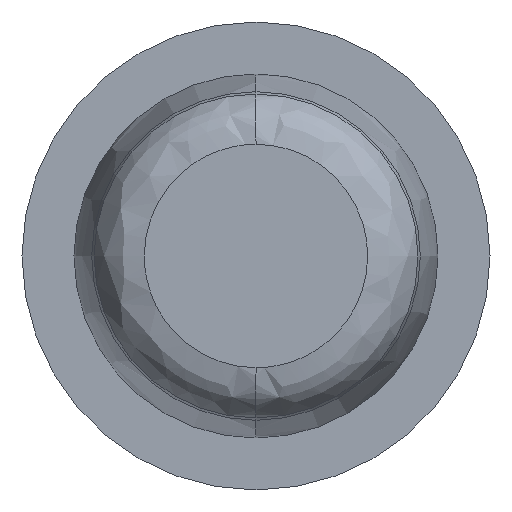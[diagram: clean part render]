
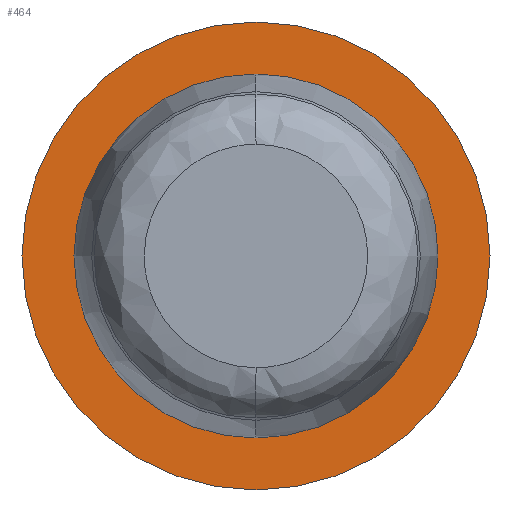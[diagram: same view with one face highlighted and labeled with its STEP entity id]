
A CAD part, left-side view. The second image highlights one B-rep face of the part: STEP entity #464.
In plain terms, the highlighted planar face has unit normal (-1, 0, 0).
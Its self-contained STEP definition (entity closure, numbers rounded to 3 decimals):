
#6 = CARTESIAN_POINT ( 'NONE',  ( -8., 0., 6.8 ) ) ;
#13 = DIRECTION ( 'NONE',  ( -1., 0., 0. ) ) ;
#26 = CARTESIAN_POINT ( 'NONE',  ( -8., 0., 0. ) ) ;
#33 = FACE_OUTER_BOUND ( 'NONE', #81, .T. ) ;
#39 = CARTESIAN_POINT ( 'NONE',  ( -8., 7.9, 0. ) ) ;
#47 = AXIS2_PLACEMENT_3D ( 'NONE', #513, #13, #519 ) ;
#81 = EDGE_LOOP ( 'NONE', ( #469, #161 ) ) ;
#159 = CIRCLE ( 'NONE', #204, 9. ) ;
#161 = ORIENTED_EDGE ( 'NONE', *, *, #525, .T. ) ;
#165 = DIRECTION ( 'NONE',  ( -1., 0., 0. ) ) ;
#166 = EDGE_CURVE ( 'NONE', #456, #208, #209, .T. ) ;
#174 = EDGE_LOOP ( 'NONE', ( #175, #385 ) ) ;
#175 = ORIENTED_EDGE ( 'NONE', *, *, #439, .F. ) ;
#180 = CIRCLE ( 'NONE', #495, 6.8 ) ;
#204 = AXIS2_PLACEMENT_3D ( 'NONE', #403, #530, #448 ) ;
#205 = DIRECTION ( 'NONE',  ( -1., 0., 0. ) ) ;
#208 = VERTEX_POINT ( 'NONE', #280 ) ;
#209 = CIRCLE ( 'NONE', #337, 9. ) ;
#211 = VERTEX_POINT ( 'NONE', #380 ) ;
#217 = CIRCLE ( 'NONE', #47, 6.8 ) ;
#244 = DIRECTION ( 'NONE',  ( 0., 0., -1. ) ) ;
#280 = CARTESIAN_POINT ( 'NONE',  ( -8., 0., 9. ) ) ;
#288 = DIRECTION ( 'NONE',  ( 0., 0., -1. ) ) ;
#316 = EDGE_CURVE ( 'NONE', #342, #211, #217, .T. ) ;
#327 = AXIS2_PLACEMENT_3D ( 'NONE', #39, #165, #334 ) ;
#334 = DIRECTION ( 'NONE',  ( 0., 0., 1. ) ) ;
#335 = CARTESIAN_POINT ( 'NONE',  ( -8., 0., -9. ) ) ;
#337 = AXIS2_PLACEMENT_3D ( 'NONE', #26, #205, #288 ) ;
#342 = VERTEX_POINT ( 'NONE', #6 ) ;
#380 = CARTESIAN_POINT ( 'NONE',  ( -8., 0., -6.8 ) ) ;
#382 = CARTESIAN_POINT ( 'NONE',  ( -8., 0., 0. ) ) ;
#385 = ORIENTED_EDGE ( 'NONE', *, *, #316, .F. ) ;
#403 = CARTESIAN_POINT ( 'NONE',  ( -8., 0., 0. ) ) ;
#439 = EDGE_CURVE ( 'NONE', #211, #342, #180, .T. ) ;
#448 = DIRECTION ( 'NONE',  ( 0., 0., -1. ) ) ;
#456 = VERTEX_POINT ( 'NONE', #335 ) ;
#464 = ADVANCED_FACE ( 'NONE', ( #33, #543 ), #541, .T. ) ;
#469 = ORIENTED_EDGE ( 'NONE', *, *, #166, .T. ) ;
#495 = AXIS2_PLACEMENT_3D ( 'NONE', #382, #498, #244 ) ;
#498 = DIRECTION ( 'NONE',  ( -1., 0., 0. ) ) ;
#513 = CARTESIAN_POINT ( 'NONE',  ( -8., 0., 0. ) ) ;
#519 = DIRECTION ( 'NONE',  ( 0., 0., -1. ) ) ;
#525 = EDGE_CURVE ( 'NONE', #208, #456, #159, .T. ) ;
#530 = DIRECTION ( 'NONE',  ( -1., 0., 0. ) ) ;
#541 = PLANE ( 'NONE',  #327 ) ;
#543 = FACE_BOUND ( 'NONE', #174, .T. ) ;
